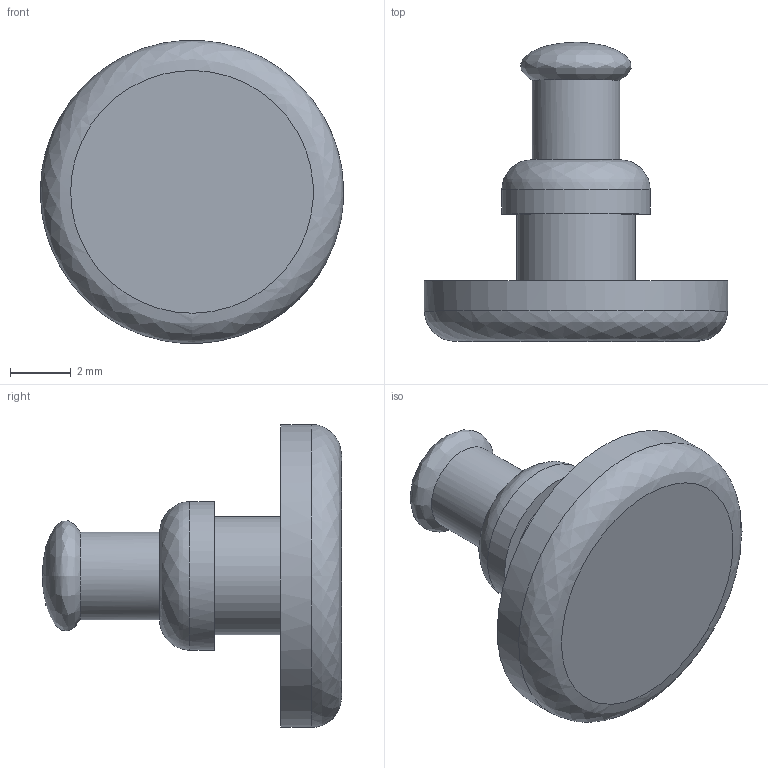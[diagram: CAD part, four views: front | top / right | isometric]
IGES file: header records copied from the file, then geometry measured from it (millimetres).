
Global section: file name: Perno chiusura; native system: Autodesk Inventor 2018; preprocessor: unknown; author: Alessia Buffagni; date: 20190730.152958; units: millimetre
Bounding box: 10 x 9.86 x 9.99 mm (x, y, z)
Volume: 234.8 mm3; surface area: 304.9 mm2
Topology: 1 solids, 1 shells, 11 faces, 30 edges, 23 vertices
Faces by surface type: bspline 11
